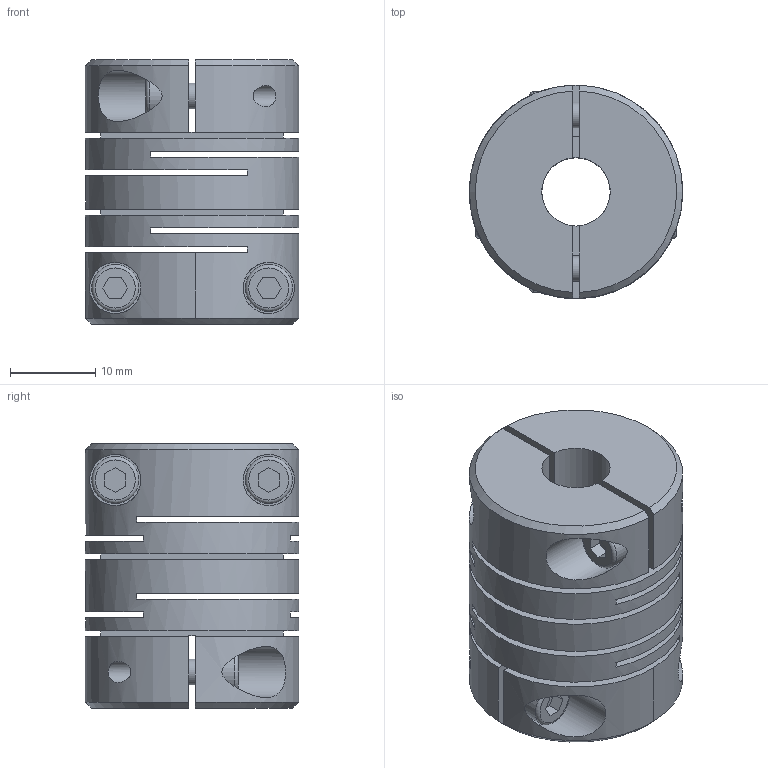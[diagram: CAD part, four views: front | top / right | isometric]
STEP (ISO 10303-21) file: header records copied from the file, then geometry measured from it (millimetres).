
FILE_DESCRIPTION (( 'STEP AP214' ), '1' );
FILE_NAME ('2246-25-B8-3_8-NI.step', '2022-05-27T09:31:04', ( '' ), ( '' ), 'SwSTEP 2.0', 'SolidWorks 2019', '' );
FILE_SCHEMA (( 'AUTOMOTIVE_DESIGN' ));
Length unit declared in the file: millimetre
Products named in the file (1): 2246-25-B8-3_8-NI
Bounding box: 25 x 24.99 x 31 mm (x, y, z)
Volume: 11120.9 mm3; surface area: 9365.5 mm2
Topology: 1 solids, 1 shells, 123 faces, 308 edges, 208 vertices
Faces by surface type: plane 79, cylinder 32, cone 8, torus 4
Full cylindrical faces by diameter (mm): 2.5 x4, 3 x4, 3.3 x4, 5.5 x4, 6 x4, 8 x3, 9.525 x3, 25 x1
Entity records: 4300 total; most frequent: CARTESIAN_POINT 975, DIRECTION 552, ORIENTED_EDGE 476, EDGE_CURVE 238, AXIS2_PLACEMENT_3D 207, EDGE_LOOP 200, VERTEX_POINT 178, FACE_OUTER_BOUND 153
